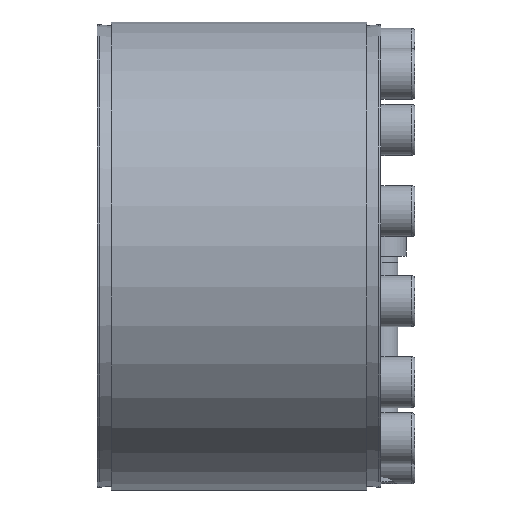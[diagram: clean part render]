
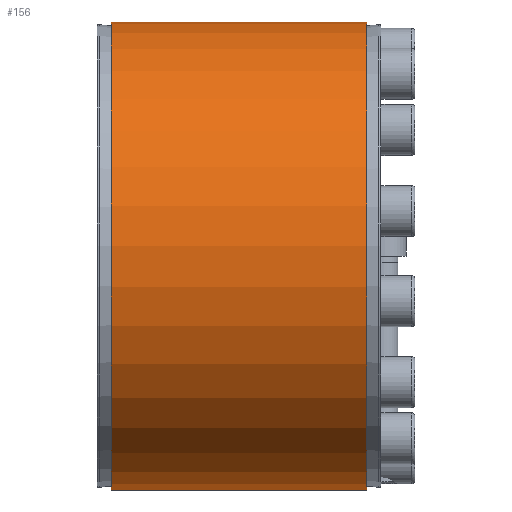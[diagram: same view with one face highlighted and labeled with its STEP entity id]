
A CAD part, left-side view. The second image highlights one B-rep face of the part: STEP entity #156.
In plain terms, the highlighted cylindrical face has radius 82.5 mm (diameter 165 mm), a partial arc.
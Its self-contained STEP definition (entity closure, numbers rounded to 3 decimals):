
#156 = ADVANCED_FACE( '', ( #375 ), #376, .T. );
#375 = FACE_OUTER_BOUND( '', #729, .T. );
#376 = CYLINDRICAL_SURFACE( '', #730, 82.5 );
#729 = EDGE_LOOP( '', ( #1202, #1203, #1204, #1205 ) );
#730 = AXIS2_PLACEMENT_3D( '', #1206, #1207, #1208 );
#1202 = ORIENTED_EDGE( '', *, *, #1696, .F. );
#1203 = ORIENTED_EDGE( '', *, *, #1697, .T. );
#1204 = ORIENTED_EDGE( '', *, *, #1604, .F. );
#1205 = ORIENTED_EDGE( '', *, *, #1698, .F. );
#1206 = CARTESIAN_POINT( '', ( 0., -60., 0. ) );
#1207 = DIRECTION( '', ( 0., 1., 0. ) );
#1208 = DIRECTION( '', ( 0., 0., -1. ) );
#1604 = EDGE_CURVE( '', #1877, #1879, #1880, .F. );
#1696 = EDGE_CURVE( '', #2033, #2034, #2035, .T. );
#1697 = EDGE_CURVE( '', #2033, #1879, #2036, .T. );
#1698 = EDGE_CURVE( '', #2034, #1877, #2037, .T. );
#1877 = VERTEX_POINT( '', #2348 );
#1879 = VERTEX_POINT( '', #2351 );
#1880 = LINE( '', #2352, #2353 );
#2033 = VERTEX_POINT( '', #2533 );
#2034 = VERTEX_POINT( '', #2534 );
#2035 = LINE( '', #2535, #2536 );
#2036 = CIRCLE( '', #2537, 82.5 );
#2037 = CIRCLE( '', #2538, 82.5 );
#2348 = CARTESIAN_POINT( '', ( 19.817, 5., 80.084 ) );
#2351 = CARTESIAN_POINT( '', ( 19.817, 95., 80.084 ) );
#2352 = CARTESIAN_POINT( '', ( 19.817, -60., 80.084 ) );
#2353 = VECTOR( '', #2747, 1000. );
#2533 = CARTESIAN_POINT( '', ( 16.893, 95., 80.752 ) );
#2534 = CARTESIAN_POINT( '', ( 16.893, 5., 80.752 ) );
#2535 = CARTESIAN_POINT( '', ( 16.893, -60., 80.752 ) );
#2536 = VECTOR( '', #2913, 1000. );
#2537 = AXIS2_PLACEMENT_3D( '', #2914, #2915, #2916 );
#2538 = AXIS2_PLACEMENT_3D( '', #2917, #2918, #2919 );
#2747 = DIRECTION( '', ( 0., -1., 0. ) );
#2913 = DIRECTION( '', ( 0., -1., 0. ) );
#2914 = CARTESIAN_POINT( '', ( 0., 95., 0. ) );
#2915 = DIRECTION( '', ( 0., -1., 0. ) );
#2916 = DIRECTION( '', ( 0., 0., -1. ) );
#2917 = CARTESIAN_POINT( '', ( 0., 5., 0. ) );
#2918 = DIRECTION( '', ( 0., -1., 0. ) );
#2919 = DIRECTION( '', ( 0., 0., -1. ) );
